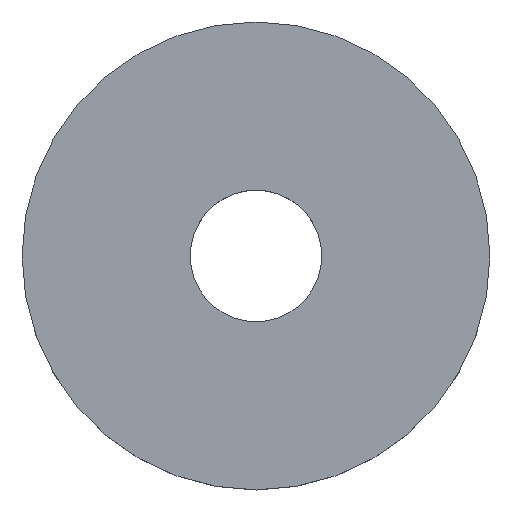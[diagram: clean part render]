
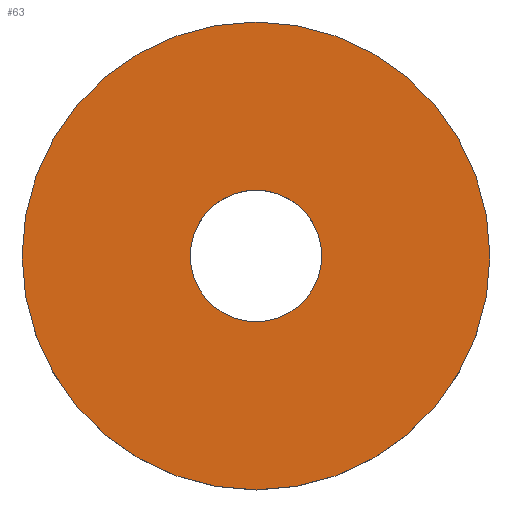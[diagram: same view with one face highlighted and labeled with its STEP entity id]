
A CAD part, top view. The second image highlights one B-rep face of the part: STEP entity #63.
In plain terms, the highlighted planar face has unit normal (0, 0, 1).
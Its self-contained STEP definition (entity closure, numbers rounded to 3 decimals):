
#15=FACE_BOUND('',#26,.T.);
#17=PLANE('',#94);
#21=FACE_OUTER_BOUND('',#25,.T.);
#25=EDGE_LOOP('',(#55));
#26=EDGE_LOOP('',(#56));
#34=CIRCLE('',#90,2.25);
#35=CIRCLE('',#92,8.);
#38=VERTEX_POINT('',#120);
#39=VERTEX_POINT('',#124);
#43=EDGE_CURVE('',#38,#38,#34,.T.);
#44=EDGE_CURVE('',#39,#39,#35,.T.);
#55=ORIENTED_EDGE('',*,*,#44,.T.);
#56=ORIENTED_EDGE('',*,*,#43,.T.);
#63=ADVANCED_FACE('',(#21,#15),#17,.T.);
#90=AXIS2_PLACEMENT_3D('',#122,#103,#104);
#92=AXIS2_PLACEMENT_3D('',#125,#107,#108);
#94=AXIS2_PLACEMENT_3D('',#129,#112,#113);
#103=DIRECTION('center_axis',(0.,0.,-1.));
#104=DIRECTION('ref_axis',(-1.,0.,0.));
#107=DIRECTION('center_axis',(0.,0.,1.));
#108=DIRECTION('ref_axis',(-1.,0.,0.));
#112=DIRECTION('center_axis',(0.,0.,1.));
#113=DIRECTION('ref_axis',(1.,0.,0.));
#120=CARTESIAN_POINT('',(2.25,0.,2.3));
#122=CARTESIAN_POINT('Origin',(0.,0.,2.3));
#124=CARTESIAN_POINT('',(8.,0.,2.3));
#125=CARTESIAN_POINT('Origin',(0.,0.,2.3));
#129=CARTESIAN_POINT('Origin',(0.,0.,2.3));
